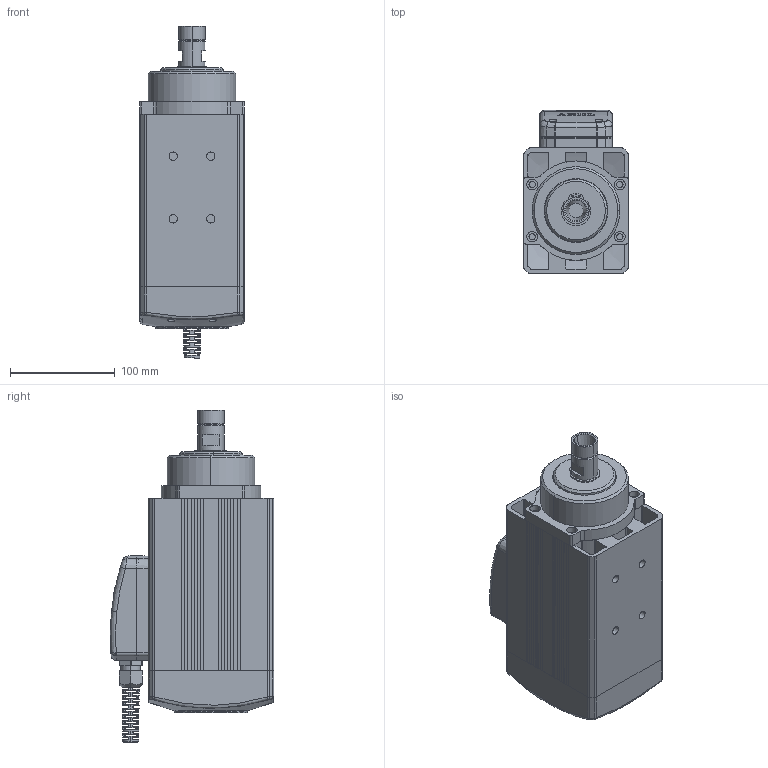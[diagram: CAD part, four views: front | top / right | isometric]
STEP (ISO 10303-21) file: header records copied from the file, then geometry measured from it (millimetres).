
FILE_DESCRIPTION (( 'STEP AP203' ), '1' );
FILE_NAME ('ARFM.3K-S Montaj ER20.STEP', '2019-11-25T14:07:37', ( '' ), ( '' ), 'SwSTEP 2.0', 'SolidWorks 2014', '' );
FILE_SCHEMA (( 'CONFIG_CONTROL_DESIGN' ));
Length unit declared in the file: millimetre
Products named in the file (14): rekor3; Yeni 3K Tas Kapak K齭a; Arfm.3Y Ön Toz Kapaðý 52 lik; rekor1; ARFM.3K-S Montaj ER20; 3K Yeni 琄 Kapak; klemens kutusu montaj tabansýz; Klemens Kutusu  alt tabansýz; Arfm.3Y Yeni Rotor Mili ER20; rekor2; Etiket; ARFM.3K-S Gövdesi; Klemens Kutusu Kapaðý Kademeli; 471-25 Sekman_98541A440
Assembly tree (13 placements, depth 3):
  ARFM.3K-S Montaj ER20
    3K Yeni 琄 Kapak
    Etiket
    Yeni 3K Tas Kapak K齭a
    klemens kutusu montaj tabansýz
      Klemens Kutusu  alt tabansýz
      Klemens Kutusu Kapaðý Kademeli
      rekor1
      rekor2
      rekor3
    ARFM.3K-S Gövdesi
    Arfm.3Y Ön Toz Kapaðý 52 lik
    Arfm.3Y Yeni Rotor Mili ER20
    471-25 Sekman_98541A440
Bounding box: 100 x 156.24 x 317.6 mm (x, y, z)
Volume: 2054565.4 mm3; surface area: 327670.8 mm2
Topology: 12 solids, 12 shells, 1412 faces, 3856 edges, 2474 vertices
Faces by surface type: plane 700, cylinder 420, cone 160, bspline 106, sphere 18, torus 8
Entity records: 55611 total; most frequent: CARTESIAN_POINT 19441, ORIENTED_EDGE 7696, DIRECTION 6629, EDGE_CURVE 3848, VERTEX_POINT 2474, AXIS2_PLACEMENT_3D 2334, LINE 1961, VECTOR 1961
